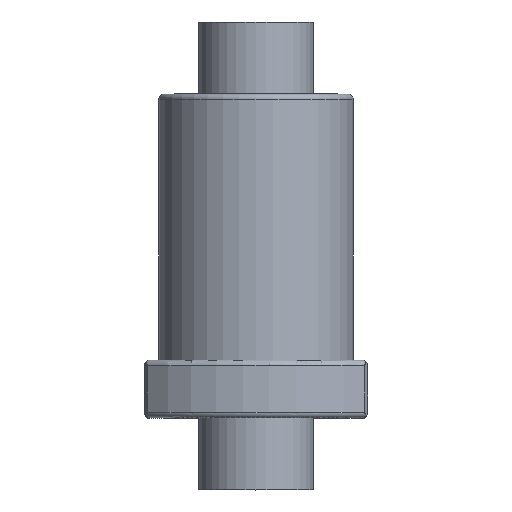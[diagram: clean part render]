
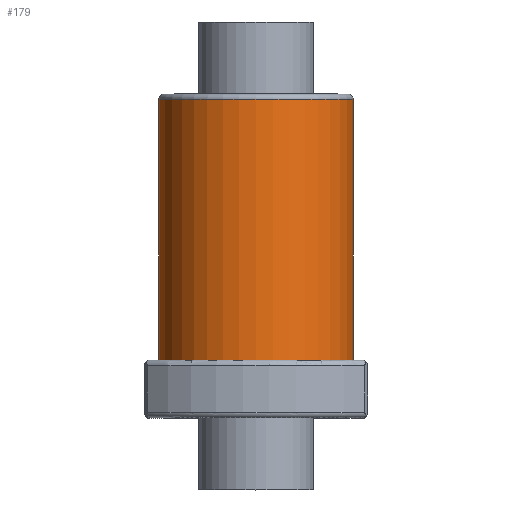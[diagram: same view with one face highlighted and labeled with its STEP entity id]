
A CAD part, top view. The second image highlights one B-rep face of the part: STEP entity #179.
In plain terms, the highlighted cylindrical face has radius 27 mm (diameter 54 mm), a full revolution.
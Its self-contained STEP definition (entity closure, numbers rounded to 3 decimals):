
#179=ADVANCED_FACE('',(#250,#251),#223,.T.);
#223=CYLINDRICAL_SURFACE('',#842,27.);
#250=FACE_BOUND('',#332,.T.);
#251=FACE_BOUND('',#333,.T.);
#332=EDGE_LOOP('',(#468));
#333=EDGE_LOOP('',(#469));
#468=ORIENTED_EDGE('',*,*,#707,.T.);
#469=ORIENTED_EDGE('',*,*,#689,.T.);
#613=VERTEX_POINT('',#1322);
#624=VERTEX_POINT('',#1465);
#689=EDGE_CURVE('',#613,#613,#768,.T.);
#707=EDGE_CURVE('',#624,#624,#774,.T.);
#768=CIRCLE('',#829,27.);
#774=CIRCLE('',#841,27.);
#829=AXIS2_PLACEMENT_3D('',#1321,#974,#975);
#841=AXIS2_PLACEMENT_3D('',#1464,#1002,#1003);
#842=AXIS2_PLACEMENT_3D('',#1466,#1004,#1005);
#974=DIRECTION('',(0.,1.,0.));
#975=DIRECTION('',(0.,0.,-1.));
#1002=DIRECTION('',(0.,-1.,0.));
#1003=DIRECTION('',(0.,0.,-1.));
#1004=DIRECTION('',(0.,1.,0.));
#1005=DIRECTION('',(0.,0.,1.));
#1321=CARTESIAN_POINT('',(0.,16.,0.));
#1322=CARTESIAN_POINT('',(0.,16.,-27.));
#1464=CARTESIAN_POINT('',(0.,88.5,0.));
#1465=CARTESIAN_POINT('',(0.,88.5,-27.));
#1466=CARTESIAN_POINT('',(0.,0.,0.));
